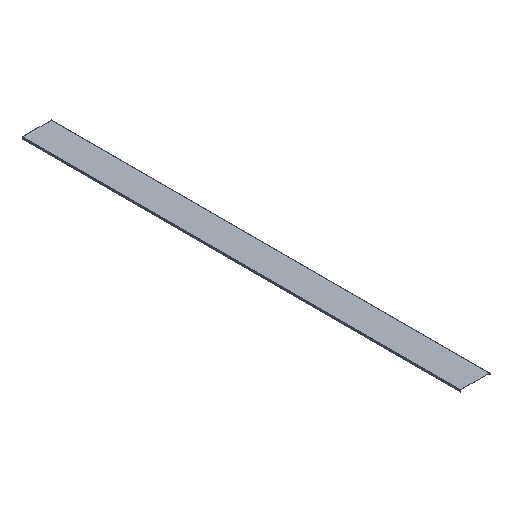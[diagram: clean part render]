
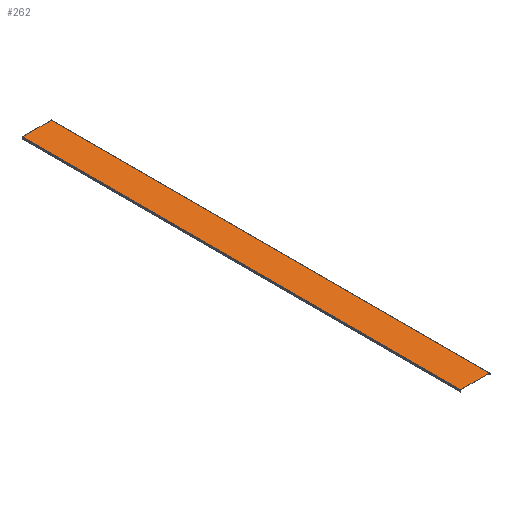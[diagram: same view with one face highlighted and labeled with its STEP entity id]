
A CAD part, isometric view. The second image highlights one B-rep face of the part: STEP entity #262.
In plain terms, the highlighted planar face has unit normal (0, 0, 1).
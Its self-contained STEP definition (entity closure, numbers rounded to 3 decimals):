
#36=FACE_OUTER_BOUND('',#50,.T.);
#50=EDGE_LOOP('',(#207,#208,#209,#210));
#76=LINE('',#434,#104);
#77=LINE('',#437,#105);
#78=LINE('',#439,#106);
#79=LINE('',#440,#107);
#104=VECTOR('',#356,10.);
#105=VECTOR('',#359,10.);
#106=VECTOR('',#360,10.);
#107=VECTOR('',#361,10.);
#129=VERTEX_POINT('',#430);
#130=VERTEX_POINT('',#432);
#131=VERTEX_POINT('',#436);
#132=VERTEX_POINT('',#438);
#162=EDGE_CURVE('',#129,#130,#76,.T.);
#163=EDGE_CURVE('',#131,#129,#77,.T.);
#164=EDGE_CURVE('',#132,#130,#78,.T.);
#165=EDGE_CURVE('',#131,#132,#79,.T.);
#207=ORIENTED_EDGE('',*,*,#163,.T.);
#208=ORIENTED_EDGE('',*,*,#162,.T.);
#209=ORIENTED_EDGE('',*,*,#164,.F.);
#210=ORIENTED_EDGE('',*,*,#165,.F.);
#249=PLANE('',#296);
#262=ADVANCED_FACE('',(#36),#249,.T.);
#296=AXIS2_PLACEMENT_3D('',#435,#357,#358);
#356=DIRECTION('',(0.,1.,0.));
#357=DIRECTION('center_axis',(0.,0.,1.));
#358=DIRECTION('ref_axis',(1.,0.,0.));
#359=DIRECTION('',(1.,0.,0.));
#360=DIRECTION('',(1.,0.,0.));
#361=DIRECTION('',(0.,1.,0.));
#430=CARTESIAN_POINT('',(200.,0.,12.));
#432=CARTESIAN_POINT('',(200.,3000.,12.));
#434=CARTESIAN_POINT('',(200.,0.,12.));
#435=CARTESIAN_POINT('Origin',(2.,0.,12.));
#436=CARTESIAN_POINT('',(2.,0.,12.));
#437=CARTESIAN_POINT('',(2.,0.,12.));
#438=CARTESIAN_POINT('',(2.,3000.,12.));
#439=CARTESIAN_POINT('',(2.,3000.,12.));
#440=CARTESIAN_POINT('',(2.,0.,12.));
